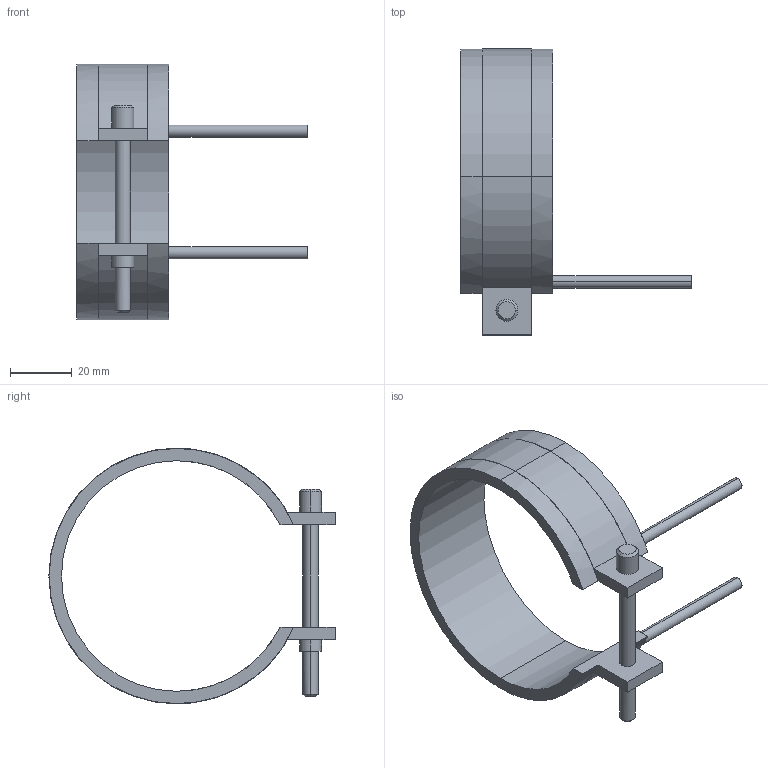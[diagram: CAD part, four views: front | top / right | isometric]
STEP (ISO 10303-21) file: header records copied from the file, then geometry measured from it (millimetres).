
FILE_DESCRIPTION(('CATIA V5 STEP Exchange'),'2;1');
FILE_NAME('C:\Users\Utente\Desktop\IO LAVORO\3D X SITO CF\X SITO\PLASTICA\RF2\14075030.stp','2021-04-03T08:45:25+00:00',('none'),('none'),'CATIA Version 5 Release 20 GA (IN-10)','CATIA V5 STEP AP203','none');
FILE_SCHEMA(('CONFIG_CONTROL_DESIGN'));
Length unit declared in the file: millimetre
Products named in the file (1): 14075030
Bounding box: 75 x 93.1 x 83.2 mm (x, y, z)
Volume: 30353.9 mm3; surface area: 18069.8 mm2
Topology: 1 solids, 1 shells, 45 faces, 116 edges, 76 vertices
Faces by surface type: cylinder 24, plane 17, cone 4
Entity records: 1406 total; most frequent: CARTESIAN_POINT 280, ORIENTED_EDGE 232, DIRECTION 196, EDGE_CURVE 116, AXIS2_PLACEMENT_3D 104, VERTEX_POINT 76, CIRCLE 62, VECTOR 52
